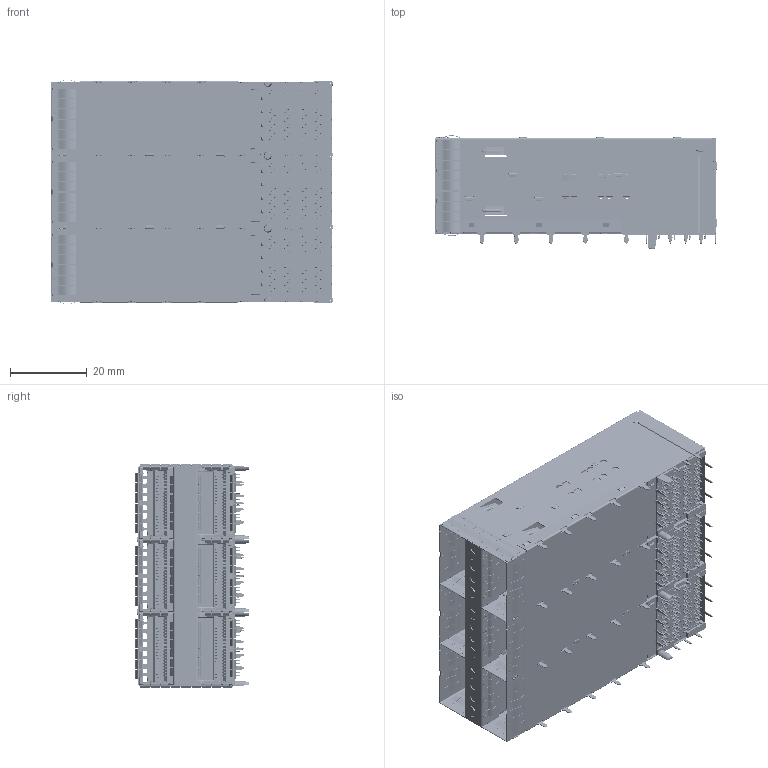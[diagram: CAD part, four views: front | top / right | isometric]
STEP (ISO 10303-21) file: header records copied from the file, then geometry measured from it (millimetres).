
FILE_DESCRIPTION (( 'STEP AP214' ), '1' );
FILE_NAME ('SZC0-0000310200-0000-X.STEP', '2021-06-25T07:49:21', ( '' ), ( '' ), 'SwSTEP 2.0', 'SolidWorks 2012', '' );
FILE_SCHEMA (( 'AUTOMOTIVE_DESIGN' ));
Length unit declared in the file: millimetre
Products named in the file (20): SZC0-0000310200-0000-X; SZC0-M110-1; SZC0-S110-1_2.25-w\o lightpipe+heatsink hole1 ass''y; SZC0-M120_w\o heatsink+w\ all lightpipe DU-DU-right ass''y1 after bent; SZ10-S140_1xN mid spring ass''y; SZC0-S130-1_2.25-散熱孔1-ass''y; Ground Ass''y-1_w\DU-DU 4lightpipe; Conn+lightpipe-1_w\4lightpipe; SZ10-S130_1x1 top&bottom spring ass''y; SZC0-P130_w\4Lightpipe; SZA0-XX-XXXX; SS20-S150_1x1-Top Spring Ass''y; SZC0-S140_W all  Lightpipe DU-DU left ass''y; SZC0-M120_w\o heatsink+w\ all lightpipe DU-DU-ass''y1 before bent; SZC0-P120_left; SZ10-S130_2xN side spring ass''y; SZC0-S120-1_4pin; SZC0-P110_for 4lightpipe; SZC0-S140_W all  Lightpipe DU-DU right ass''y; SZC0-M120_w\o heatsink+w\ all lightpipe DU-DU-left ass''y1 after bent
Assembly tree (35 placements, depth 4):
  SZC0-0000310200-0000-X
    SZC0-S110-1_2.25-w\o lightpipe+heatsink hole1 ass''y
    SZ10-S130_1x1 top&bottom spring ass''y  x6
    SZ10-S130_2xN side spring ass''y  x2
    SZC0-S120-1_4pin
    Conn+lightpipe-1_w\4lightpipe  x3
      SZC0-P110_for 4lightpipe
      SZC0-P120_left
      SZC0-P130_w\4Lightpipe
      SZA0-XX-XXXX
    Ground Ass''y-1_w\DU-DU 4lightpipe
      SZC0-M110-1  x2
        SZC0-S130-1_2.25-散熱孔1-ass''y
        SZ10-S140_1xN mid spring ass''y
      SZC0-M120_w\o heatsink+w\ all lightpipe DU-DU-left ass''y1 after bent
        SZC0-S140_W all  Lightpipe DU-DU left ass''y
        SS20-S150_1x1-Top Spring Ass''y  x2
      SZC0-M120_w\o heatsink+w\ all lightpipe DU-DU-ass''y1 before bent
        SZC0-S140_W all  Lightpipe DU-DU right ass''y
        SS20-S150_1x1-Top Spring Ass''y  x2
      SZC0-M120_w\o heatsink+w\ all lightpipe DU-DU-right ass''y1 after bent
        SZC0-S140_W all  Lightpipe DU-DU right ass''y
        SS20-S150_1x1-Top Spring Ass''y  x2
Bounding box: 73.53 x 29.52 x 58.55 mm (x, y, z)
Volume: 20568.2 mm3; surface area: 98727.6 mm2
Topology: 613 solids, 613 shells, 45311 faces, 123659 edges, 79082 vertices
Faces by surface type: plane 25640, cylinder 12367, bspline 5798, torus 1068, sphere 360, cone 78
Entity records: 715941 total; most frequent: CARTESIAN_POINT 148714, ORIENTED_EDGE 97660, DIRECTION 93102, EDGE_CURVE 48830, VERTEX_POINT 31260, AXIS2_PLACEMENT_3D 31218, LINE 30666, VECTOR 30666
